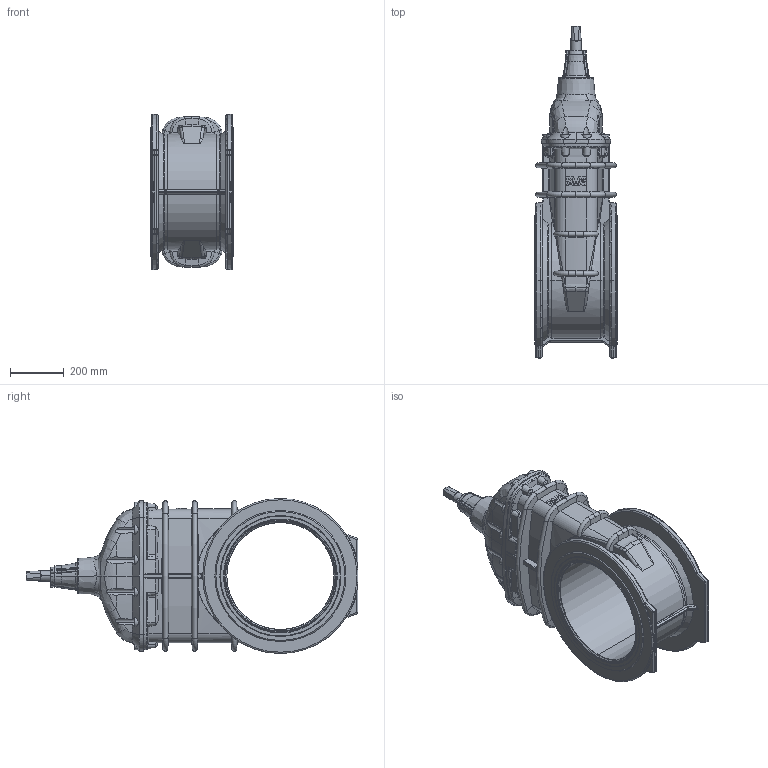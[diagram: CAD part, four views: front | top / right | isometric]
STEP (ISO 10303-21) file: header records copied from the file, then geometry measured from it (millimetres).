
FILE_DESCRIPTION (( 'STEP AP203' ), '1' );
FILE_NAME ('O_06_30_DN400_REV02.step', '2020-04-27T08:40:07', ( '' ), ( '' ), 'SwSTEP 2.0', 'SolidWorks 2019', '' );
FILE_SCHEMA (( 'CONFIG_CONTROL_DESIGN' ));
Length unit declared in the file: millimetre
Products named in the file (1): O_06_30_DN400_REV02
Bounding box: 310 x 1240.86 x 580 mm (x, y, z)
Volume: 62856335.7 mm3; surface area: 2343378.2 mm2
Topology: 1 solids, 1 shells, 951 faces, 2400 edges, 1438 vertices
Faces by surface type: cone 238, bspline 222, cylinder 176, plane 157, torus 146, sphere 12
Entity records: 43197 total; most frequent: CARTESIAN_POINT 22911, ORIENTED_EDGE 4748, DIRECTION 3656, EDGE_CURVE 2374, AXIS2_PLACEMENT_3D 1546, VERTEX_POINT 1438, EDGE_LOOP 966, ADVANCED_FACE 951
